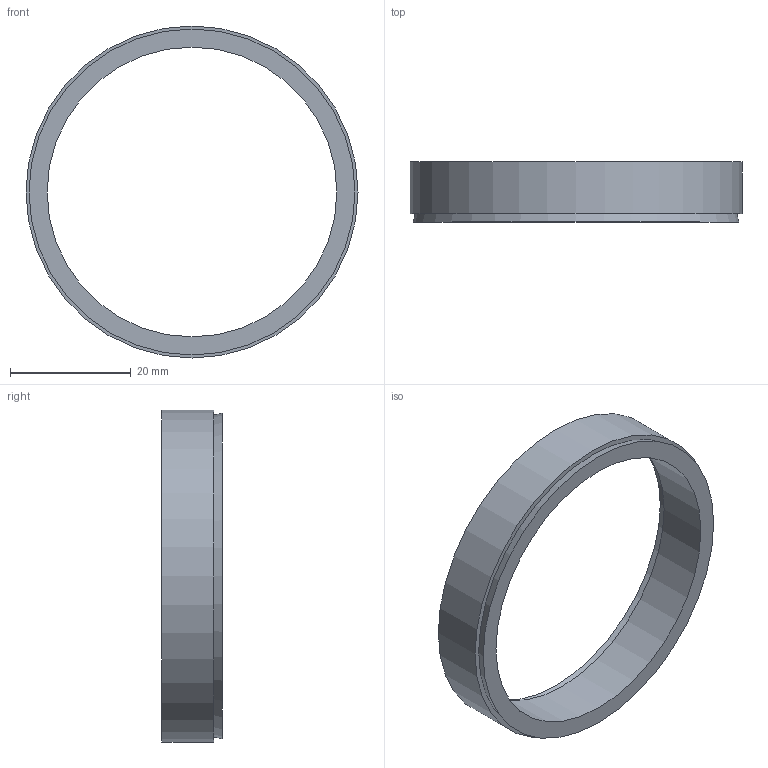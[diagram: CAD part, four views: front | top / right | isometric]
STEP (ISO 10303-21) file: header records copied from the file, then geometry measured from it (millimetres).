
FILE_DESCRIPTION( ( 'Unknown' ), '1' );
FILE_NAME( 'C:/Dokumente und Einstellungen/Sven/Desktop/homepage/cad - homepage/KBS50/KBS 50 - 48 x 55.stp', 'Unknown', ( 'Unknown' ), ( 'Unknown' ), 'XStep 1.0', 'Unknown', ' ' );
FILE_SCHEMA( ( 'automotive_design' ) );
Length unit declared in the file: millimetre
Products named in the file (1): 1
Bounding box: 55 x 10 x 55 mm (x, y, z)
Volume: 5356.9 mm3; surface area: 4495.6 mm2
Topology: 1 solids, 1 shells, 8 faces, 12 edges, 8 vertices
Faces by surface type: plane 4, cylinder 2, cone 2
Full cylindrical faces by diameter (mm): 48 x1, 55 x1
Entity records: 248 total; most frequent: DIRECTION 34, CARTESIAN_POINT 25, AXIS2_PLACEMENT_3D 17, EDGE_LOOP 16, ORIENTED_EDGE 16, FACE_OUTER_BOUND 10, STYLED_ITEM 8, PRESENTATION_STYLE_ASSIGNMENT 8
